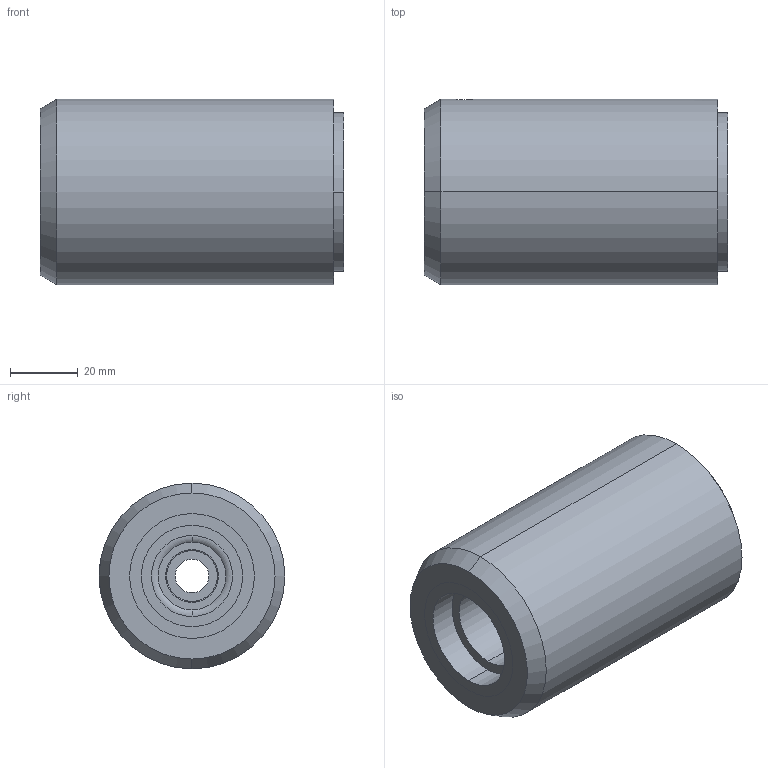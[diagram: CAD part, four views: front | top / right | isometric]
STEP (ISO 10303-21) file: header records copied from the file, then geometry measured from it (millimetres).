
FILE_DESCRIPTION (( 'STEP AP203' ), '1' );
FILE_NAME ('HLM-1.STEP', '2022-09-08T08:20:56', ( '' ), ( '' ), 'SwSTEP 2.0', 'SolidWorks 2019', '' );
FILE_SCHEMA (( 'CONFIG_CONTROL_DESIGN' ));
Length unit declared in the file: millimetre
Products named in the file (6): HLM-Hülse 1_011.00000675.300_Kunde; HLM-ARO 1_011.00000674.300_Kunde; radial ball bearing_68_din_DIN 625 - 6002 - 12,SI,NC,12_68; HLM-1; socket set screw cup point_din_DIN 916 - M8 x 8-C; HLM-IRO 1_011.00000676.300_Kunde
Assembly tree (6 placements, depth 2):
  HLM-1
    HLM-ARO 1_011.00000674.300_Kunde
    HLM-IRO 1_011.00000676.300_Kunde
    HLM-Hülse 1_011.00000675.300_Kunde
    radial ball bearing_68_din_DIN 625 - 6002 - 12,SI,NC,12_68  x2
    socket set screw cup point_din_DIN 916 - M8 x 8-C
Bounding box: 90 x 55 x 55 mm (x, y, z)
Volume: 158594.7 mm3; surface area: 62004.4 mm2
Topology: 6 solids, 6 shells, 147 faces, 300 edges, 183 vertices
Faces by surface type: cylinder 72, plane 37, torus 28, cone 10
Entity records: 3964 total; most frequent: CARTESIAN_POINT 651, DIRECTION 644, ORIENTED_EDGE 484, AXIS2_PLACEMENT_3D 278, EDGE_CURVE 242, VERTEX_POINT 151, CIRCLE 150, EDGE_LOOP 147
